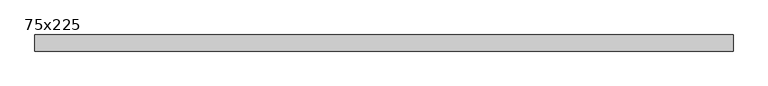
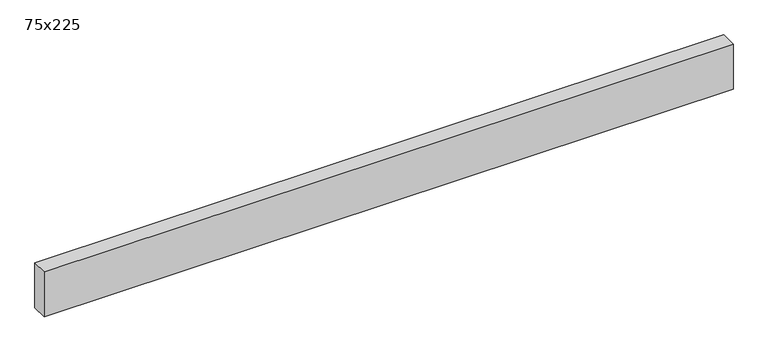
"""IFC4 building model written with IfcOpenShell, lengths in millimetres: beam geometry, Madrier : 75x225."""

from ifc_helpers import new_model, si_unit, frame, origin, place, context, project, spatial, polyline, outline, extrude, source, transform, mapped, element, save


def beam_75x225_99bbb481(model_context):
    return source(origin(), model_context, "Body", "SweptSolid", [
        extrude(outline(polyline([(1621.25, 37.5), (1621.25, -37.5), (-1621.2499994, -37.5), (-1621.2499994, 37.5), (1621.25, 37.5)])), frame((0.0, 0.0, -112.5), z_axis=(0.0, 0.0, 1.0), x_axis=(1.0, 0.0, 0.0)), (0.0, 0.0, 1.0), 225.0),
    ])


if __name__ == "__main__":
    model = new_model("IFC4")
    model_context = context("Model", 3, world=origin())
    ifc_project = project(units=[si_unit("LENGTHUNIT", "METRE", prefix="MILLI")], contexts=[model_context])
    site = spatial("IfcSite", under=ifc_project)
    building = spatial("IfcBuilding", under=site)
    placement = place(None, origin())
    beam_75x225_shape = beam_75x225_99bbb481(model_context)
    element("IfcBeam", 1, ObjectType="Madrier : 75x225", at=placement, inside=building, context=model_context, shape_type="MappedRepresentation", body=[
        mapped(beam_75x225_shape, transform((0.0, 0.0, 0.0), x_axis=(1.0, 0.0, 0.0), y_axis=(0.0, 1.0, 0.0), z_axis=(0.0, 0.0, 1.0))),
    ])
    save(model, "model.ifc")
